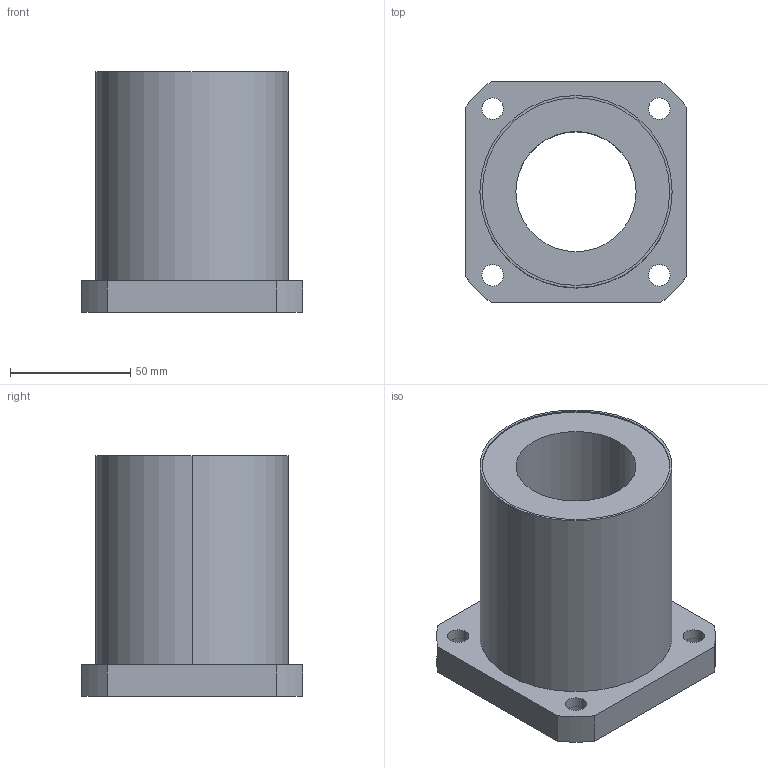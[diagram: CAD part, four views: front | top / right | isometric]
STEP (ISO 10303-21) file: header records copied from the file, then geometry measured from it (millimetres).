
FILE_DESCRIPTION((''),'2;1');
FILE_NAME('C:\Documents and Settings\ｿﾀﾀ蠑ｷ1\ｹﾙﾅﾁ ﾈｭｸ饅\ｺﾎﾇｰﾆﾄﾀﾏ\ﾁｦﾇｰ\LMK__UU\LMK50UU.stp','2005-06-15T09:50:02',('ｿﾀﾀ蠑ｷ1'),(''),'Autodesk Inventor 9','Autodesk Inventor 9','');
FILE_SCHEMA(('AUTOMOTIVE_DESIGN { 1 0 10303 214 1 1 1 1 }'));
Length unit declared in the file: millimetre
Products named in the file (1): LMK__
Bounding box: 92 x 92 x 100 mm (x, y, z)
Volume: 337527.2 mm3; surface area: 56256.4 mm2
Topology: 1 solids, 1 shells, 44 faces, 102 edges, 68 vertices
Faces by surface type: cylinder 30, plane 14
Entity records: 1329 total; most frequent: DIRECTION 252, CARTESIAN_POINT 215, ORIENTED_EDGE 204, AXIS2_PLACEMENT_3D 105, EDGE_CURVE 102, VERTEX_POINT 68, EDGE_LOOP 62, CIRCLE 60
